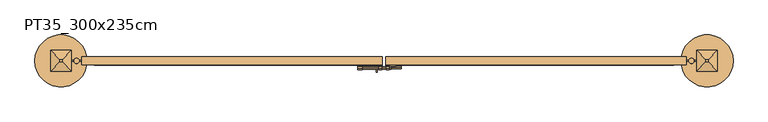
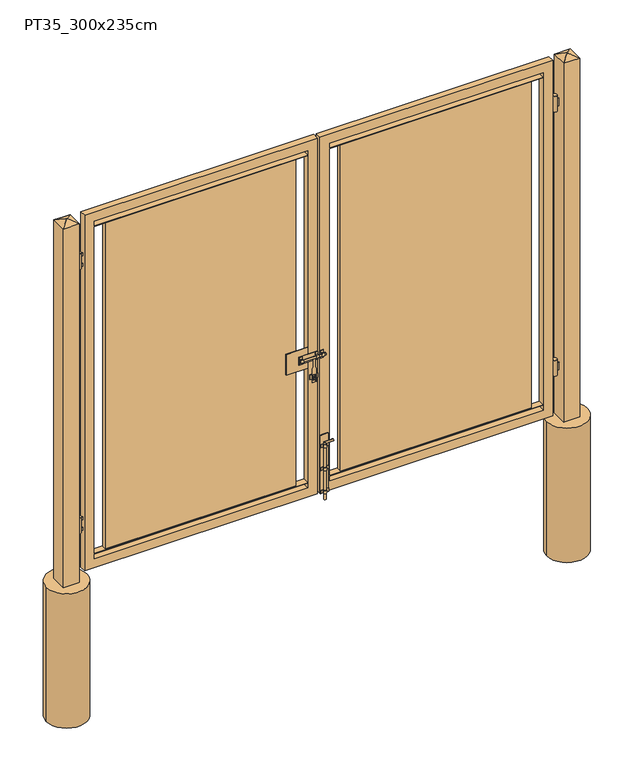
"""IFC4 building model written with IfcOpenShell, lengths in millimetres: door geometry, FDE_PT34_PT35_Portão_UsoExterno_GradilEletrofundido_2Folhas : PT35_300x235cm."""

from ifc_helpers import new_model, si_unit, point, frame, frame_2d, origin, place, context, project, spatial, polyline, circle_curve, ellipse_curve, trimmed, segment, composite_curve, outline, extrude, faceted_brep, source, transform, mapped, element, save
from ifc_brep_helpers import plane_surface, cylinder_surface, revolved_surface, advanced_brep


def pt35_300x235cm_5ac86dbf(model_context):
    return source(origin(), model_context, "Body", "SolidModel", [
        extrude(outline(composite_curve([segment(polyline([(26.15, -25.0), (26.15, -31.25)]), True, "CONTINUOUS"), segment(trimmed(circle_curve(frame_2d((32.5, -31.25)), 6.35), [point((26.15, -31.25))], [point((38.8345317, -31.6929536))], True, "CARTESIAN"), True, "CONTINUOUS"), segment(polyline([(38.8345317, -31.6929536), (38.8345317, -25.0), (57.5, -25.0), (57.5, -27.0), (40.8382427, -27.0), (40.8382427, -31.6929536)]), True, "CONTINUOUS"), segment(trimmed(circle_curve(frame_2d((32.5, -31.25)), 8.35), [point((40.8382427, -31.6929536))], [point((24.15, -31.25))], False, "CARTESIAN"), True, "CONTINUOUS"), segment(polyline([(24.15, -31.25), (24.15, -27.0), (7.5, -27.0), (7.5, -25.0), (26.15, -25.0)]), True, "CONTINUOUS")], self_intersect=False)), frame((0.0, 0.0, 320.0), z_axis=(0.0, 0.0, 1.0), x_axis=(1.0, 0.0, 0.0)), (0.0, 0.0, 1.0), 20.0),
        extrude(outline(composite_curve([segment(polyline([(26.15, -25.0), (26.15, -31.25)]), True, "CONTINUOUS"), segment(trimmed(circle_curve(frame_2d((32.5, -31.25)), 6.35), [point((26.15, -31.25))], [point((38.8345317, -31.6929536))], True, "CARTESIAN"), True, "CONTINUOUS"), segment(polyline([(38.8345317, -31.6929536), (38.8345317, -25.0), (57.5, -25.0), (57.5, -27.0), (40.8382427, -27.0), (40.8382427, -31.6929536)]), True, "CONTINUOUS"), segment(trimmed(circle_curve(frame_2d((32.5, -31.25)), 8.35), [point((40.8382427, -31.6929536))], [point((24.15, -31.25))], False, "CARTESIAN"), True, "CONTINUOUS"), segment(polyline([(24.15, -31.25), (24.15, -27.0), (7.5, -27.0), (7.5, -25.0), (26.15, -25.0)]), True, "CONTINUOUS")], self_intersect=False)), frame((0.0, 0.0, 170.0), z_axis=(0.0, 0.0, 1.0), x_axis=(1.0, 0.0, 0.0)), (0.0, 0.0, 1.0), 20.0),
        extrude(outline(composite_curve([segment(polyline([(26.15, -25.0), (26.15, -31.25)]), True, "CONTINUOUS"), segment(trimmed(circle_curve(frame_2d((32.5, -31.25)), 6.35), [point((26.15, -31.25))], [point((38.8345317, -31.6929536))], True, "CARTESIAN"), True, "CONTINUOUS"), segment(polyline([(38.8345317, -31.6929536), (38.8345317, -25.0), (57.5, -25.0), (57.5, -27.0), (40.8382427, -27.0), (40.8382427, -31.6929536)]), True, "CONTINUOUS"), segment(trimmed(circle_curve(frame_2d((32.5, -31.25)), 8.35), [point((40.8382427, -31.6929536))], [point((24.15, -31.25))], False, "CARTESIAN"), True, "CONTINUOUS"), segment(polyline([(24.15, -31.25), (24.15, -27.0), (7.5, -27.0), (7.5, -25.0), (26.15, -25.0)]), True, "CONTINUOUS")], self_intersect=False)), frame((0.0, 0.0, 20.0), z_axis=(0.0, 0.0, 1.0), x_axis=(1.0, 0.0, 0.0)), (0.0, 0.0, 1.0), 20.0),
        advanced_brep(
        [(26.15, -31.25, -20.0), (38.85, -31.25, -20.0), (26.15, -31.25, 356.35), (38.85, -31.25, 343.65), (82.5, -31.25, 356.35), (82.5, -31.25, 343.65)],
        [
            (0, 1, circle_curve(frame((32.5, -31.25, -20.0), z_axis=(0.0, 0.0, -1.0), x_axis=(1.0, 0.0, 0.0)), 6.35)),
            (1, 0, circle_curve(frame((32.5, -31.25, -20.0), z_axis=(0.0, 0.0, -1.0), x_axis=(1.0, 0.0, 0.0)), 6.35)),
            (0, 2),
            (2, 3, ellipse_curve(frame((32.5, -31.25, 350.0), z_axis=(-0.707106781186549, 0.0, -0.7071067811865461), x_axis=(0.7071067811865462, 0.0, -0.7071067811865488)), 8.9802561, 6.35)),
            (3, 1),
            (3, 2, ellipse_curve(frame((32.5, -31.25, 350.0), z_axis=(-0.707106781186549, 0.0, -0.7071067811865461), x_axis=(0.7071067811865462, 0.0, -0.7071067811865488)), 8.9802561, 6.35)),
            (4, 5, circle_curve(frame((82.5, -31.25, 350.0), z_axis=(1.0, 0.0, 0.0), x_axis=(0.0, 0.0, -1.0)), 6.35)),
            (5, 4, circle_curve(frame((82.5, -31.25, 350.0), z_axis=(1.0, 0.0, 0.0), x_axis=(0.0, 0.0, -1.0)), 6.35)),
            (2, 4),
            (5, 3),
        ],
        [
            plane_surface(frame((32.5, -31.25, -20.0), z_axis=(0.0, 0.0, -1.0), x_axis=(0.0, -1.0, 0.0))),
            cylinder_surface(frame((32.5, -31.25, -20.0), z_axis=(0.0, 0.0, -1.0), x_axis=(1.0, 0.0, 0.0)), 6.35),
            plane_surface(frame((82.5, -31.25, 350.0), z_axis=(1.0, 0.0, 0.0), x_axis=(0.0, -1.0, 0.0))),
            cylinder_surface(frame((32.5, -31.25, 350.0), z_axis=(-1.0, 0.0, 0.0), x_axis=(0.0, 0.0, -1.0)), 6.35),
        ],
        [
            (0, [[1, 2]]),
            (1, [[-1, 3, 4, 5]]),
            (1, [[-2, -5, 6, -3]]),
            (2, [[7, 8]]),
            (3, [[-4, 9, -8, 10]]),
            (3, [[-6, -10, -7, -9]]),
        ],
    ),
        extrude(outline(polyline([(57.5, -25.0), (7.5, -25.0), (7.5, -20.0), (57.5, -20.0), (57.5, -25.0)])), frame((0.0, 0.0, 20.0), z_axis=(0.0, 0.0, 1.0), x_axis=(1.0, 0.0, 0.0)), (0.0, 0.0, 1.0), 380.0),
        extrude(outline(polyline([(2075.0, 1477.5), (2095.0, 1477.5), (2095.0, 1450.0), (2075.0, 1450.0), (2075.0, 1472.5), (2025.0, 1472.5), (2025.0, 1450.0), (2005.0, 1450.0), (2005.0, 1477.5), (2025.0, 1477.5), (2025.0, 1500.0), (2075.0, 1500.0), (2075.0, 1477.5)])), frame((0.0, -2.5, 0.0), z_axis=(0.0, 1.0, 0.0), x_axis=(0.0, 0.0, 1.0)), (0.0, 0.0, 1.0), 5.0),
        extrude(outline(composite_curve([segment(trimmed(circle_curve(frame_2d((1475.0, 0.0)), 12.7), [point((1487.7, 0.0))], [point((1462.3, 0.0))], False, "CARTESIAN"), True, "CONTINUOUS"), segment(trimmed(circle_curve(frame_2d((1475.0, 0.0)), 12.7), [point((1462.3, 0.0))], [point((1487.7, 0.0))], False, "CARTESIAN"), True, "CONTINUOUS")], self_intersect=False)), frame((0.0, 0.0, 1999.2), z_axis=(0.0, 0.0, 1.0), x_axis=(1.0, 0.0, 0.0)), (0.0, 0.0, 1.0), 101.6),
        extrude(outline(polyline([(345.0, 1477.5), (365.0, 1477.5), (365.0, 1450.0), (345.0, 1450.0), (345.0, 1472.5), (295.0, 1472.5), (295.0, 1450.0), (275.0, 1450.0), (275.0, 1477.5), (295.0, 1477.5), (295.0, 1500.0), (345.0, 1500.0), (345.0, 1477.5)])), frame((0.0, -2.5, 0.0), z_axis=(0.0, 1.0, 0.0), x_axis=(0.0, 0.0, 1.0)), (0.0, 0.0, 1.0), 5.0),
        extrude(outline(composite_curve([segment(trimmed(circle_curve(frame_2d((1475.0, 0.0)), 12.7), [point((1487.7, 0.0))], [point((1462.3, 0.0))], False, "CARTESIAN"), True, "CONTINUOUS"), segment(trimmed(circle_curve(frame_2d((1475.0, 0.0)), 12.7), [point((1462.3, 0.0))], [point((1487.7, 0.0))], False, "CARTESIAN"), True, "CONTINUOUS")], self_intersect=False)), frame((0.0, 0.0, 269.2), z_axis=(0.0, 0.0, 1.0), x_axis=(1.0, 0.0, 0.0)), (0.0, 0.0, 1.0), 101.6),
        extrude(outline(polyline([(137.5, -13.3918139), (137.5, 13.3918139), (1320.0, 13.3918139), (1320.0, -13.3918139), (137.5, -13.3918139)])), frame((0.0, 0.0, 114.76), z_axis=(0.0, 0.0, 1.0), x_axis=(1.0, 0.0, 0.0)), (0.0, 0.0, 1.0), 2140.48),
        extrude(outline(polyline([(2350.0, 7.5), (20.0, 7.5), (20.0, 1450.0), (2350.0, 1450.0), (2350.0, 7.5)]), holes=[polyline([(2290.0, 67.5), (2290.0, 1390.0), (2260.0, 1390.0), (2260.0, 67.5), (2290.0, 67.5)]), polyline([(114.76, 1390.0), (114.76, 67.5), (2255.24, 67.5), (2255.24, 1390.0), (114.76, 1390.0)]), polyline([(80.0, 67.5), (110.0, 67.5), (110.0, 1390.0), (80.0, 1390.0), (80.0, 67.5)])]), frame((0.0, -20.0, 0.0), z_axis=(0.0, 1.0, 0.0), x_axis=(0.0, 0.0, 1.0)), (0.0, 0.0, 1.0), 40.0),
        extrude(outline(polyline([(2075.0, -1477.5), (2075.0, -1500.0), (2025.0, -1500.0), (2025.0, -1477.5), (2005.0, -1477.5), (2005.0, -1450.0), (2025.0, -1450.0), (2025.0, -1472.5), (2075.0, -1472.5), (2075.0, -1450.0), (2095.0, -1450.0), (2095.0, -1477.5), (2075.0, -1477.5)])), frame((0.0, -2.5, 0.0), z_axis=(0.0, 1.0, 0.0), x_axis=(0.0, 0.0, 1.0)), (0.0, 0.0, 1.0), 5.0),
        extrude(outline(composite_curve([segment(trimmed(circle_curve(frame_2d((-1475.0, 0.0)), 12.7), [point((-1487.7, 0.0))], [point((-1462.3, 0.0))], False, "CARTESIAN"), True, "CONTINUOUS"), segment(trimmed(circle_curve(frame_2d((-1475.0, 0.0)), 12.7), [point((-1462.3, 0.0))], [point((-1487.7, 0.0))], False, "CARTESIAN"), True, "CONTINUOUS")], self_intersect=False)), frame((0.0, 0.0, 1999.2), z_axis=(0.0, 0.0, 1.0), x_axis=(1.0, 0.0, 0.0)), (0.0, 0.0, 1.0), 101.6),
        extrude(outline(polyline([(345.0, -1477.5), (345.0, -1500.0), (295.0, -1500.0), (295.0, -1477.5), (275.0, -1477.5), (275.0, -1450.0), (295.0, -1450.0), (295.0, -1472.5), (345.0, -1472.5), (345.0, -1450.0), (365.0, -1450.0), (365.0, -1477.5), (345.0, -1477.5)])), frame((0.0, -2.5, 0.0), z_axis=(0.0, 1.0, 0.0), x_axis=(0.0, 0.0, 1.0)), (0.0, 0.0, 1.0), 5.0),
        extrude(outline(composite_curve([segment(trimmed(circle_curve(frame_2d((-1475.0, 0.0)), 12.7), [point((-1487.7, 0.0))], [point((-1462.3, 0.0))], False, "CARTESIAN"), True, "CONTINUOUS"), segment(trimmed(circle_curve(frame_2d((-1475.0, 0.0)), 12.7), [point((-1462.3, 0.0))], [point((-1487.7, 0.0))], False, "CARTESIAN"), True, "CONTINUOUS")], self_intersect=False)), frame((0.0, 0.0, 269.2), z_axis=(0.0, 0.0, 1.0), x_axis=(1.0, 0.0, 0.0)), (0.0, 0.0, 1.0), 101.6),
        extrude(outline(polyline([(-137.5, -13.3918139), (-1320.0, -13.3918139), (-1320.0, 13.3918139), (-137.5, 13.3918139), (-137.5, -13.3918139)])), frame((0.0, 0.0, 114.76), z_axis=(0.0, 0.0, 1.0), x_axis=(1.0, 0.0, 0.0)), (0.0, 0.0, 1.0), 2140.48),
        extrude(outline(polyline([(-67.5, -20.0), (-202.5, -20.0), (-202.5, -15.0), (-67.5, -15.0), (-67.5, -20.0)])), frame((0.0, 0.0, 865.0), z_axis=(0.0, 0.0, 1.0), x_axis=(1.0, 0.0, 0.0)), (0.0, 0.0, 1.0), 135.0),
        extrude(outline(polyline([(2350.0, -7.5), (2350.0, -1450.0), (20.0, -1450.0), (20.0, -7.5), (2350.0, -7.5)]), holes=[polyline([(80.0, -67.5), (80.0, -1390.0), (110.0, -1390.0), (110.0, -67.5), (80.0, -67.5)]), polyline([(2290.0, -67.5), (2260.0, -67.5), (2260.0, -1390.0), (2290.0, -1390.0), (2290.0, -67.5)]), polyline([(114.76, -1390.0), (2255.24, -1390.0), (2255.24, -67.5), (114.76, -67.5), (114.76, -1390.0)])]), frame((0.0, -20.0, 0.0), z_axis=(0.0, 1.0, 0.0), x_axis=(0.0, 0.0, 1.0)), (0.0, 0.0, 1.0), 40.0),
        advanced_brep(
        [(10.0, -34.7972177, 926.6828756), (10.0, -24.0, 926.6828756), (10.0, -24.0, 907.5), (10.0, -26.0, 907.5), (10.0, -26.0, 924.6828756), (10.0, -34.7972177, 924.6828756), (10.0, -34.7972177, 941.3828756), (10.0, -26.0, 941.3931626), (10.0, -26.0, 957.5), (10.0, -24.0, 957.5), (10.0, -24.0, 939.3931626), (10.0, -34.8015861, 939.3931626), (25.0, -34.7994019, 926.693163), (25.0, -34.8015861, 939.3931626), (25.0, -24.0, 939.3931626), (25.0, -24.0, 957.5), (25.0, -26.0, 957.5), (25.0, -26.0, 941.3931626), (25.0, -34.7972177, 941.3931626), (25.0, -34.7972177, 924.6828756), (25.0, -26.0, 924.6828756), (25.0, -26.0, 907.5), (25.0, -24.0, 907.5), (25.0, -24.0, 926.6828756)],
        [
            (0, 1),
            (1, 2),
            (2, 3),
            (3, 4),
            (4, 5),
            (5, 6, circle_curve(frame((10.0, -34.7972177, 933.0328756), z_axis=(-1.0, 0.0, 0.0), x_axis=(0.0, 0.0, -1.0)), 8.35)),
            (6, 7),
            (7, 8),
            (8, 9),
            (9, 10),
            (10, 11),
            (11, 0, circle_curve(frame((10.0, -34.7994019, 933.043163), z_axis=(1.0, 0.0, 0.0), x_axis=(0.0, 0.0, -1.0)), 6.35)),
            (12, 13, circle_curve(frame((25.0, -34.7994019, 933.043163), z_axis=(-1.0, 0.0, 0.0), x_axis=(0.0, 0.0, -1.0)), 6.35)),
            (13, 14),
            (14, 15),
            (15, 16),
            (16, 17),
            (17, 18),
            (18, 19, circle_curve(frame((25.0, -34.7972177, 933.0328756), z_axis=(1.0, 0.0, 0.0), x_axis=(0.0, 0.0, -1.0)), 8.35)),
            (19, 20),
            (20, 21),
            (21, 22),
            (22, 23),
            (23, 12),
            (12, 0),
            (11, 13),
            (10, 14),
            (9, 15),
            (8, 16),
            (7, 17),
            (6, 18),
            (5, 19),
            (4, 20),
            (3, 21),
            (2, 22),
            (1, 23),
        ],
        [
            plane_surface(frame((10.0, -34.7994019, 926.693163), z_axis=(-1.0, 0.0, 0.0), x_axis=(0.0, 1.0, 0.0))),
            plane_surface(frame((25.0, -34.7994019, 926.693163), z_axis=(1.0, 0.0, 0.0), x_axis=(0.0, -1.0, 0.0))),
            revolved_surface(polyline([(10.0, -34.7994019, 926.693163), (25.0, -34.7994019, 926.693163)]), (10.0, -34.7994019, 933.043163), (-1.0, 0.0, 0.0)),
            plane_surface(frame((25.0, -34.8015861, 939.3931626), z_axis=(0.0, 0.0, -1.0), x_axis=(-1.0, 0.0, 0.0))),
            plane_surface(frame((25.0, -24.0, 939.3931626), z_axis=(0.0, 1.0, 0.0), x_axis=(-1.0, 0.0, 0.0))),
            plane_surface(frame((25.0, -24.0, 957.5), z_axis=(0.0, 0.0, 1.0), x_axis=(-1.0, 0.0, 0.0))),
            plane_surface(frame((25.0, -26.0, 957.5), z_axis=(0.0, -1.0, 0.0), x_axis=(-1.0, 0.0, 0.0))),
            plane_surface(frame((25.0, -26.0, 941.3931626), z_axis=(0.0, 0.0, 1.0), x_axis=(-1.0, 0.0, 0.0))),
            cylinder_surface(frame((10.0, -34.7972177, 933.0328756), z_axis=(1.0, 0.0, 0.0), x_axis=(0.0, 0.0, -1.0)), 8.35),
            plane_surface(frame((25.0, -34.7972177, 924.6828756), z_axis=(0.0, 0.0, -1.0), x_axis=(-1.0, 0.0, 0.0))),
            plane_surface(frame((25.0, -26.0, 924.6828756), z_axis=(0.0, -1.0, 0.0), x_axis=(-1.0, 0.0, 0.0))),
            plane_surface(frame((25.0, -26.0, 907.5), z_axis=(0.0, 0.0, -1.0), x_axis=(-1.0, 0.0, 0.0))),
            plane_surface(frame((25.0, -24.0, 907.5), z_axis=(0.0, 1.0, 0.0), x_axis=(-1.0, 0.0, 0.0))),
            plane_surface(frame((25.0, -24.0, 926.6828756), z_axis=(0.0, 0.0, 1.0), x_axis=(-1.0, 0.0, 0.0))),
        ],
        [
            (0, [[1, 2, 3, 4, 5, 6, 7, 8, 9, 10, 11, 12]]),
            (1, [[13, 14, 15, 16, 17, 18, 19, 20, 21, 22, 23, 24]]),
            (2, [[-13, 25, -12, 26]]),
            (3, [[-14, -26, -11, 27]]),
            (4, [[-15, -27, -10, 28]]),
            (5, [[-16, -28, -9, 29]]),
            (6, [[-17, -29, -8, 30]]),
            (7, [[-18, -30, -7, 31]]),
            (8, [[-19, -31, -6, 32]]),
            (9, [[-20, -32, -5, 33]]),
            (10, [[-21, -33, -4, 34]]),
            (11, [[-22, -34, -3, 35]]),
            (12, [[-23, -35, -2, 36]]),
            (13, [[-24, -36, -1, -25]]),
        ],
    ),
        advanced_brep(
        [(-40.0, -32.8935961, 923.839746), (-40.0, -32.8935961, 870.3785853), (-46.1056497, -32.8935961, 857.2849773), (-46.1056497, -32.8935961, 770.4855504), (-23.8943503, -32.8935961, 770.4855504), (-23.8943503, -32.8935961, 857.2849773), (-30.0, -32.8935961, 870.3785853), (-30.0, -32.8935961, 923.839746), (-31.8164344, -32.8935961, 926.9859025), (-38.1835656, -32.8935961, 926.9859025), (-28.8943503, -32.8935961, 819.8525354), (-28.8943503, -32.8935961, 784.6450732), (-41.1056497, -32.8935961, 784.6450732), (-41.1056497, -32.8935961, 819.8525354), (-30.0, -31.380621, 923.839746), (-30.0, -31.380621, 870.3785853), (-23.8943503, -31.380621, 857.2849773), (-23.8943503, -31.380621, 770.4855504), (-46.1056497, -31.380621, 770.4855504), (-46.1056497, -31.380621, 857.2849773), (-40.0, -31.380621, 870.3785853), (-40.0, -31.380621, 923.839746), (-37.7758726, -31.380621, 927.6920475), (-32.2241274, -31.380621, 927.6920475), (-28.8943503, -31.380621, 819.8525354), (-41.1056497, -31.380621, 819.8525354), (-41.1056497, -31.380621, 784.6450732), (-28.8943503, -31.380621, 784.6450732), (34.8207606, -34.7994019, 939.393163), (34.8207606, -34.7994019, 926.693163), (-125.0, -34.7994019, 939.393163), (-125.0, -34.7994019, 926.693163)],
        [
            (0, 1),
            (1, 2),
            (2, 3),
            (3, 4),
            (4, 5),
            (5, 6),
            (6, 7),
            (7, 8),
            (8, 9),
            (9, 0),
            (10, 11),
            (11, 12),
            (12, 13),
            (13, 10),
            (14, 15),
            (15, 16),
            (16, 17),
            (17, 18),
            (18, 19),
            (19, 20),
            (20, 21),
            (21, 22),
            (22, 23),
            (23, 14),
            (24, 25),
            (25, 26),
            (26, 27),
            (27, 24),
            (0, 21),
            (20, 1),
            (19, 2),
            (18, 3),
            (17, 4),
            (16, 5),
            (15, 6),
            (14, 7),
            (10, 24),
            (27, 11),
            (26, 12),
            (25, 13),
            (28, 29, circle_curve(frame((34.8207606, -34.7994019, 933.043163), z_axis=(1.0, 0.0, 0.0), x_axis=(0.0, 0.0, -1.0)), 6.35)),
            (29, 28, circle_curve(frame((34.8207606, -34.7994019, 933.043163), z_axis=(1.0, 0.0, 0.0), x_axis=(0.0, 0.0, -1.0)), 6.35)),
            (30, 31, circle_curve(frame((-125.0, -34.7994019, 933.043163), z_axis=(-1.0, 0.0, 0.0), x_axis=(0.0, 0.0, -1.0)), 6.35)),
            (31, 30, circle_curve(frame((-125.0, -34.7994019, 933.043163), z_axis=(-1.0, 0.0, 0.0), x_axis=(0.0, 0.0, -1.0)), 6.35)),
            (28, 30),
            (31, 29),
            (8, 23, ellipse_curve(frame((-35.3135953, -34.7994019, 933.043163), z_axis=(0.8660254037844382, 0.0, 0.5000000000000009), x_axis=(0.5000000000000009, 0.0, -0.8660254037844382)), 7.3323484, 6.35)),
            (22, 9, ellipse_curve(frame((-34.6864047, -34.7994019, 933.043163), z_axis=(-0.8660254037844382, 0.0, 0.500000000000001), x_axis=(0.5000000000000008, 0.0, 0.8660254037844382)), 7.3323484, 6.35)),
        ],
        [
            plane_surface(frame((-40.0, -32.8935961, 927.5), z_axis=(0.0, -1.0, 0.0), x_axis=(0.0, 0.0, -1.0))),
            plane_surface(frame((-40.0, -31.380621, 927.5), z_axis=(0.0, 1.0, 0.0), x_axis=(0.0, 0.0, 1.0))),
            plane_surface(frame((-40.0, -32.8935961, 923.839746), z_axis=(-1.0, 0.0, 0.0), x_axis=(0.0, 1.0, 0.0))),
            plane_surface(frame((-40.0, -32.8935961, 870.3785853), z_axis=(-0.9063077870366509, 0.0, 0.4226182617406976), x_axis=(0.0, 1.0, 0.0))),
            plane_surface(frame((-46.1056497, -32.8935961, 857.2849773), z_axis=(-1.0, 0.0, 0.0), x_axis=(0.0, 1.0, 0.0))),
            plane_surface(frame((-46.1056497, -32.8935961, 770.4855504), z_axis=(0.0, 0.0, -1.0), x_axis=(0.0, 1.0, 0.0))),
            plane_surface(frame((-23.8943503, -32.8935961, 770.4855504), z_axis=(1.0, 0.0, 0.0), x_axis=(0.0, 1.0, 0.0))),
            plane_surface(frame((-23.8943503, -32.8935961, 857.2849773), z_axis=(0.9063077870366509, 0.0, 0.42261826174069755), x_axis=(0.0, 1.0, 0.0))),
            plane_surface(frame((-30.0, -32.8935961, 870.3785853), z_axis=(1.0, 0.0, 0.0), x_axis=(0.0, 1.0, 0.0))),
            plane_surface(frame((-28.8943503, -32.8935961, 819.8525354), z_axis=(-1.0, 0.0, 0.0), x_axis=(0.0, 1.0, 0.0))),
            plane_surface(frame((-28.8943503, -32.8935961, 784.6450732), z_axis=(0.0, 0.0, 1.0), x_axis=(0.0, 1.0, 0.0))),
            plane_surface(frame((-41.1056497, -32.8935961, 784.6450732), z_axis=(1.0, 0.0, 0.0), x_axis=(0.0, 1.0, 0.0))),
            plane_surface(frame((-41.1056497, -32.8935961, 819.8525354), z_axis=(0.0, 0.0, -1.0), x_axis=(0.0, 1.0, 0.0))),
            plane_surface(frame((34.8207606, -34.7994019, 926.693163), z_axis=(1.0, 0.0, 0.0), x_axis=(0.0, 1.0, 0.0))),
            plane_surface(frame((-125.0, -34.7994019, 926.693163), z_axis=(-1.0, 0.0, 0.0), x_axis=(0.0, -1.0, 0.0))),
            cylinder_surface(frame((-125.0, -34.7994019, 933.043163), z_axis=(1.0, 0.0, 0.0), x_axis=(0.0, 0.0, -1.0)), 6.35),
            plane_surface(frame((-30.0, -32.8935961, 923.839746), z_axis=(0.8660254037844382, 0.0, 0.5000000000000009), x_axis=(0.0, 1.0, 0.0))),
            plane_surface(frame((-35.0, -32.8935961, 932.5), z_axis=(-0.8660254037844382, 0.0, 0.500000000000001), x_axis=(0.0, 1.0, 0.0))),
        ],
        [
            (0, [[1, 2, 3, 4, 5, 6, 7, 8, 9, 10], [11, 12, 13, 14]]),
            (1, [[15, 16, 17, 18, 19, 20, 21, 22, 23, 24], [25, 26, 27, 28]]),
            (2, [[-1, 29, -21, 30]]),
            (3, [[-2, -30, -20, 31]]),
            (4, [[-3, -31, -19, 32]]),
            (5, [[-4, -32, -18, 33]]),
            (6, [[-5, -33, -17, 34]]),
            (7, [[-6, -34, -16, 35]]),
            (8, [[-7, -35, -15, 36]]),
            (9, [[-11, 37, -28, 38]]),
            (10, [[-12, -38, -27, 39]]),
            (11, [[-13, -39, -26, 40]]),
            (12, [[-14, -40, -25, -37]]),
            (13, [[41, 42]]),
            (14, [[43, 44]]),
            (15, [[-41, 45, -44, 46]]),
            (15, [[-42, -46, -43, -45], [-9, 47, -23, 48]]),
            (16, [[-36, -24, -47, -8]]),
            (17, [[-29, -10, -48, -22]]),
        ],
    ),
        extrude(outline(polyline([(-8.3641027, -24.0), (-58.3641027, -24.0), (-58.3641027, -20.0), (-8.3641027, -20.0), (-8.3641027, -24.0)])), frame((0.0, 0.0, 787.5), z_axis=(0.0, 0.0, 1.0), x_axis=(1.0, 0.0, 0.0)), (0.0, 0.0, 1.0), 30.0),
        advanced_brep(
        [(-25.0, -34.7972177, 924.6828756), (-25.0, -34.7972177, 941.3828756), (-25.0, -26.0, 941.3931626), (-25.0, -26.0, 957.5), (-25.0, -24.0, 957.5), (-25.0, -24.0, 939.3931626), (-25.0, -34.8015861, 939.3931626), (-25.0, -34.7994019, 926.693163), (-25.0, -24.0, 926.6828756), (-25.0, -24.0, 907.5), (-25.0, -26.0, 907.5), (-25.0, -26.0, 924.6828756), (-10.0, -34.7972177, 924.6828756), (-10.0, -26.0, 924.6828756), (-10.0, -26.0, 907.5), (-10.0, -24.0, 907.5), (-10.0, -24.0, 926.6828756), (-10.0, -34.7972177, 926.6828756), (-10.0, -34.8015861, 939.3931626), (-10.0, -24.0, 939.3931626), (-10.0, -24.0, 957.5), (-10.0, -26.0, 957.5), (-10.0, -26.0, 941.3931626), (-10.0, -34.7972177, 941.3931626)],
        [
            (0, 1, circle_curve(frame((-25.0, -34.7972177, 933.0328756), z_axis=(-1.0, 0.0, 0.0), x_axis=(0.0, 0.0, -1.0)), 8.35)),
            (1, 2),
            (2, 3),
            (3, 4),
            (4, 5),
            (5, 6),
            (6, 7, circle_curve(frame((-25.0, -34.7994019, 933.043163), z_axis=(1.0, 0.0, 0.0), x_axis=(0.0, 0.0, -1.0)), 6.35)),
            (7, 8),
            (8, 9),
            (9, 10),
            (10, 11),
            (11, 0),
            (12, 13),
            (13, 14),
            (14, 15),
            (15, 16),
            (16, 17),
            (17, 18, circle_curve(frame((-10.0, -34.7994019, 933.043163), z_axis=(-1.0, 0.0, 0.0), x_axis=(0.0, 0.0, -1.0)), 6.35)),
            (18, 19),
            (19, 20),
            (20, 21),
            (21, 22),
            (22, 23),
            (23, 12, circle_curve(frame((-10.0, -34.7972177, 933.0328756), z_axis=(1.0, 0.0, 0.0), x_axis=(0.0, 0.0, -1.0)), 8.35)),
            (12, 0),
            (11, 13),
            (10, 14),
            (9, 15),
            (8, 16),
            (7, 17),
            (6, 18),
            (5, 19),
            (4, 20),
            (3, 21),
            (2, 22),
            (1, 23),
        ],
        [
            plane_surface(frame((-25.0, -34.7972177, 924.6828756), z_axis=(-1.0, 0.0, 0.0), x_axis=(0.0, -1.0, 0.0))),
            plane_surface(frame((-10.0, -34.7972177, 924.6828756), z_axis=(1.0, 0.0, 0.0), x_axis=(0.0, 1.0, 0.0))),
            plane_surface(frame((-10.0, -34.7972177, 924.6828756), z_axis=(0.0, 0.0, -1.0), x_axis=(-1.0, 0.0, 0.0))),
            plane_surface(frame((-10.0, -26.0, 924.6828756), z_axis=(0.0, -1.0, 0.0), x_axis=(-1.0, 0.0, 0.0))),
            plane_surface(frame((-10.0, -26.0, 907.5), z_axis=(0.0, 0.0, -1.0), x_axis=(-1.0, 0.0, 0.0))),
            plane_surface(frame((-10.0, -24.0, 907.5), z_axis=(0.0, 1.0, 0.0), x_axis=(-1.0, 0.0, 0.0))),
            plane_surface(frame((-10.0, -24.0, 926.6828756), z_axis=(0.0, 0.0, 1.0), x_axis=(-1.0, 0.0, 0.0))),
            revolved_surface(polyline([(-25.0, -34.7994019, 926.693163), (-10.0, -34.7994019, 926.693163)]), (-25.0, -34.7994019, 933.043163), (-1.0, 0.0, 0.0)),
            plane_surface(frame((-10.0, -34.8015861, 939.3931626), z_axis=(0.0, 0.0, -1.0), x_axis=(-1.0, 0.0, 0.0))),
            plane_surface(frame((-10.0, -24.0, 939.3931626), z_axis=(0.0, 1.0, 0.0), x_axis=(-1.0, 0.0, 0.0))),
            plane_surface(frame((-10.0, -24.0, 957.5), z_axis=(0.0, 0.0, 1.0), x_axis=(-1.0, 0.0, 0.0))),
            plane_surface(frame((-10.0, -26.0, 957.5), z_axis=(0.0, -1.0, 0.0), x_axis=(-1.0, 0.0, 0.0))),
            plane_surface(frame((-10.0, -26.0, 941.3931626), z_axis=(0.0, 0.0, 1.0), x_axis=(-1.0, 0.0, 0.0))),
            cylinder_surface(frame((-25.0, -34.7972177, 933.0328756), z_axis=(1.0, 0.0, 0.0), x_axis=(0.0, 0.0, -1.0)), 8.35),
        ],
        [
            (0, [[1, 2, 3, 4, 5, 6, 7, 8, 9, 10, 11, 12]]),
            (1, [[13, 14, 15, 16, 17, 18, 19, 20, 21, 22, 23, 24]]),
            (2, [[-13, 25, -12, 26]]),
            (3, [[-14, -26, -11, 27]]),
            (4, [[-15, -27, -10, 28]]),
            (5, [[-16, -28, -9, 29]]),
            (6, [[-17, -29, -8, 30]]),
            (7, [[-18, -30, -7, 31]]),
            (8, [[-19, -31, -6, 32]]),
            (9, [[-20, -32, -5, 33]]),
            (10, [[-21, -33, -4, 34]]),
            (11, [[-22, -34, -3, 35]]),
            (12, [[-23, -35, -2, 36]]),
            (13, [[-24, -36, -1, -25]]),
        ],
    ),
        advanced_brep(
        [(-125.0, -34.7972177, 926.6828756), (-125.0, -24.0, 926.6828756), (-125.0, -24.0, 907.5), (-125.0, -26.0, 907.5), (-125.0, -26.0, 924.6828756), (-125.0, -34.7972177, 924.6828756), (-125.0, -34.7972177, 941.3828756), (-125.0, -26.0, 941.3931626), (-125.0, -26.0, 957.5), (-125.0, -24.0, 957.5), (-125.0, -24.0, 939.3931626), (-125.0, -34.7972177, 939.3931626), (-105.0, -34.7972177, 926.6828756), (-105.0, -34.7972177, 939.3828756), (-105.0, -24.0, 939.3931626), (-105.0, -24.0, 957.5), (-105.0, -26.0, 957.5), (-105.0, -26.0, 941.3931626), (-105.0, -34.7972177, 941.3931626), (-105.0, -34.7972177, 924.6828756), (-105.0, -26.0, 924.6828756), (-105.0, -26.0, 907.5), (-105.0, -24.0, 907.5), (-105.0, -24.0, 926.6828756)],
        [
            (0, 1),
            (1, 2),
            (2, 3),
            (3, 4),
            (4, 5),
            (5, 6, circle_curve(frame((-125.0, -34.7972177, 933.0328756), z_axis=(-1.0, 0.0, 0.0), x_axis=(0.0, 0.0, -1.0)), 8.35)),
            (6, 7),
            (7, 8),
            (8, 9),
            (9, 10),
            (10, 11),
            (11, 0, circle_curve(frame((-125.0, -34.7972177, 933.0328756), z_axis=(1.0, 0.0, 0.0), x_axis=(0.0, 0.0, -1.0)), 6.35)),
            (12, 13, circle_curve(frame((-105.0, -34.7972177, 933.0328756), z_axis=(-1.0, 0.0, 0.0), x_axis=(0.0, 0.0, -1.0)), 6.35)),
            (13, 14),
            (14, 15),
            (15, 16),
            (16, 17),
            (17, 18),
            (18, 19, circle_curve(frame((-105.0, -34.7972177, 933.0328756), z_axis=(1.0, 0.0, 0.0), x_axis=(0.0, 0.0, -1.0)), 8.35)),
            (19, 20),
            (20, 21),
            (21, 22),
            (22, 23),
            (23, 12),
            (12, 0),
            (11, 13),
            (15, 9),
            (8, 16),
            (7, 17),
            (20, 4),
            (3, 21),
            (2, 22),
            (10, 14),
            (6, 18),
            (5, 19),
            (1, 23),
        ],
        [
            plane_surface(frame((-125.0, -34.7972177, 926.6828756), z_axis=(-1.0, 0.0, 0.0), x_axis=(0.0, 1.0, 0.0))),
            plane_surface(frame((-105.0, -34.7972177, 926.6828756), z_axis=(1.0, 0.0, 0.0), x_axis=(0.0, -1.0, 0.0))),
            revolved_surface(polyline([(-125.0, -34.7972177, 926.6828756), (-105.0, -34.7972177, 926.6828756)]), (-125.0, -34.7972177, 933.0328756), (-1.0, 0.0, 0.0)),
            plane_surface(frame((-105.0, -24.0, 957.5), z_axis=(0.0, 0.0, 1.0), x_axis=(-1.0, 0.0, 0.0))),
            plane_surface(frame((-105.0, -26.0, 957.5), z_axis=(0.0, -1.0, 0.0), x_axis=(-1.0, 0.0, 0.0))),
            plane_surface(frame((-105.0, -26.0, 924.6828756), z_axis=(0.0, -1.0, 0.0), x_axis=(-1.0, 0.0, 0.0))),
            plane_surface(frame((-105.0, -26.0, 907.5), z_axis=(0.0, 0.0, -1.0), x_axis=(-1.0, 0.0, 0.0))),
            plane_surface(frame((-105.0, -34.7972177, 939.3931626), z_axis=(0.0, 0.0, -1.0), x_axis=(-1.0, 0.0, 0.0))),
            plane_surface(frame((-105.0, -24.0, 939.3931626), z_axis=(0.0, 1.0, 0.0), x_axis=(-1.0, 0.0, 0.0))),
            plane_surface(frame((-105.0, -26.0, 941.3931626), z_axis=(0.0, 0.0, 1.0), x_axis=(-1.0, 0.0, 0.0))),
            cylinder_surface(frame((-125.0, -34.7972177, 933.0328756), z_axis=(1.0, 0.0, 0.0), x_axis=(0.0, 0.0, -1.0)), 8.35),
            plane_surface(frame((-105.0, -34.7972177, 924.6828756), z_axis=(0.0, 0.0, -1.0), x_axis=(-1.0, 0.0, 0.0))),
            plane_surface(frame((-105.0, -24.0, 907.5), z_axis=(0.0, 1.0, 0.0), x_axis=(-1.0, 0.0, 0.0))),
            plane_surface(frame((-105.0, -24.0, 926.6828756), z_axis=(0.0, 0.0, 1.0), x_axis=(-1.0, 0.0, 0.0))),
        ],
        [
            (0, [[1, 2, 3, 4, 5, 6, 7, 8, 9, 10, 11, 12]]),
            (1, [[13, 14, 15, 16, 17, 18, 19, 20, 21, 22, 23, 24]]),
            (2, [[-13, 25, -12, 26]]),
            (3, [[-16, 27, -9, 28]]),
            (4, [[-17, -28, -8, 29]]),
            (5, [[-21, 30, -4, 31]]),
            (6, [[-22, -31, -3, 32]]),
            (7, [[-14, -26, -11, 33]]),
            (8, [[-15, -33, -10, -27]]),
            (9, [[-18, -29, -7, 34]]),
            (10, [[-19, -34, -6, 35]]),
            (11, [[-20, -35, -5, -30]]),
            (12, [[-23, -32, -2, 36]]),
            (13, [[-24, -36, -1, -25]]),
        ],
    ),
        extrude(outline(polyline([(-10.0, -24.0), (-125.0, -24.0), (-125.0, -20.0), (-10.0, -20.0), (-10.0, -24.0)])), frame((0.0, 0.0, 907.5), z_axis=(0.0, 0.0, 1.0), x_axis=(1.0, 0.0, 0.0)), (0.0, 0.0, 1.0), 50.0),
        extrude(outline(polyline([(-55.6666689, 788.9597108), (-55.6666689, 816.2609972), (-24.0, 816.2609972), (-24.0, 788.9597108), (-55.6666689, 788.9597108)]), holes=[composite_curve([segment(trimmed(circle_curve(frame_2d((-43.2209778, 802.9403392)), 9.0), [point((-43.2209778, 811.9403392))], [point((-43.2209778, 793.9403392))], True, "CARTESIAN"), True, "CONTINUOUS"), segment(trimmed(circle_curve(frame_2d((-43.2209778, 802.9403392)), 9.0), [point((-43.2209778, 793.9403392))], [point((-43.2209778, 811.9403392))], True, "CARTESIAN"), True, "CONTINUOUS")], self_intersect=False)]), frame((-36.6056497, 0.0, 0.0), z_axis=(1.0, 0.0, 0.0), x_axis=(0.0, 1.0, 0.0)), (0.0, 0.0, 1.0), 3.2112994),
        extrude(outline(composite_curve([segment(trimmed(circle_curve(frame_2d((1550.0, 0.0)), 125.0), [point((1425.0, 0.0))], [point((1675.0, 0.0))], False, "CARTESIAN"), True, "CONTINUOUS"), segment(trimmed(circle_curve(frame_2d((1550.0, 0.0)), 125.0), [point((1675.0, 0.0))], [point((1425.0, 0.0))], False, "CARTESIAN"), True, "CONTINUOUS")], self_intersect=False)), frame((0.0, 0.0, -900.0), z_axis=(0.0, 0.0, 1.0), x_axis=(1.0, 0.0, 0.0)), (0.0, 0.0, 1.0), 880.0),
        extrude(outline(composite_curve([segment(trimmed(circle_curve(frame_2d((-1550.0, 0.0)), 125.0), [point((-1675.0, 0.0))], [point((-1425.0, 0.0))], False, "CARTESIAN"), True, "CONTINUOUS"), segment(trimmed(circle_curve(frame_2d((-1550.0, 0.0)), 125.0), [point((-1425.0, 0.0))], [point((-1675.0, 0.0))], False, "CARTESIAN"), True, "CONTINUOUS")], self_intersect=False)), frame((0.0, 0.0, -900.0), z_axis=(0.0, 0.0, 1.0), x_axis=(1.0, 0.0, 0.0)), (0.0, 0.0, 1.0), 880.0),
        faceted_brep([(-1500.0, 50.0, -20.0), (-1500.0, -50.0, -20.0), (-1600.0, -50.0, -20.0), (-1600.0, 50.0, -20.0), (-1503.0, 47.0, -20.0), (-1597.0, 47.0, -20.0), (-1597.0, -47.0, -20.0), (-1503.0, -47.0, -20.0), (-1500.0, 50.0, 2330.0), (-1500.0, -50.0, 2330.0), (-1600.0, -50.0, 2330.0), (-1600.0, 50.0, 2330.0), (-1503.0, 47.0, 2330.0), (-1597.0, 47.0, 2330.0), (-1597.0, -47.0, 2330.0), (-1503.0, -47.0, 2330.0), (-1545.0, 5.0, 2350.0), (-1555.0, 5.0, 2350.0), (-1555.0, -5.0, 2350.0), (-1545.0, -5.0, 2350.0)], [[[0, 1, 2, 3], [4, 5, 6, 7]], [[1, 0, 8, 9]], [[2, 1, 9, 10]], [[3, 2, 10, 11]], [[0, 3, 11, 8]], [[5, 4, 12, 13]], [[6, 5, 13, 14]], [[7, 6, 14, 15]], [[4, 7, 15, 12]], [[16, 17, 18, 19]], [[12, 15, 14, 13]], [[17, 16, 8, 11]], [[18, 17, 11, 10]], [[19, 18, 10, 9]], [[16, 19, 9, 8]]]),
        faceted_brep([(1600.0, 50.0, -20.0), (1600.0, -50.0, -20.0), (1500.0, -50.0, -20.0), (1500.0, 50.0, -20.0), (1597.0, 47.0, -20.0), (1503.0, 47.0, -20.0), (1503.0, -47.0, -20.0), (1597.0, -47.0, -20.0), (1600.0, 50.0, 2330.0), (1600.0, -50.0, 2330.0), (1500.0, -50.0, 2330.0), (1500.0, 50.0, 2330.0), (1597.0, 47.0, 2330.0), (1503.0, 47.0, 2330.0), (1503.0, -47.0, 2330.0), (1597.0, -47.0, 2330.0), (1545.0, 5.0, 2350.0), (1545.0, -5.0, 2350.0), (1555.0, -5.0, 2350.0), (1555.0, 5.0, 2350.0)], [[[0, 1, 2, 3], [4, 5, 6, 7]], [[1, 0, 8, 9]], [[2, 1, 9, 10]], [[3, 2, 10, 11]], [[0, 3, 11, 8]], [[5, 4, 12, 13]], [[6, 5, 13, 14]], [[7, 6, 14, 15]], [[4, 7, 15, 12]], [[16, 17, 18, 19]], [[12, 15, 14, 13]], [[16, 19, 8, 11]], [[19, 18, 9, 8]], [[18, 17, 10, 9]], [[17, 16, 11, 10]]]),
    ])


if __name__ == "__main__":
    model = new_model("IFC4")
    model_context = context("Model", 3, world=origin())
    ifc_project = project(units=[si_unit("LENGTHUNIT", "METRE", prefix="MILLI")], contexts=[model_context])
    site = spatial("IfcSite", under=ifc_project)
    building = spatial("IfcBuilding", under=site)
    placement = place(None, origin())
    pt35_300x235cm_shape = pt35_300x235cm_5ac86dbf(model_context)
    element("IfcDoor", 1, ObjectType="FDE_PT34_PT35_Portão_UsoExterno_GradilEletrofundido_2Folhas : PT35_300x235cm", at=placement, inside=building, context=model_context, shape_type="MappedRepresentation", body=[
        mapped(pt35_300x235cm_shape, transform((0.0, 0.0, 0.0), x_axis=(1.0, 0.0, 0.0), y_axis=(0.0, 1.0, 0.0), z_axis=(0.0, 0.0, 1.0))),
    ])
    save(model, "model.ifc")
